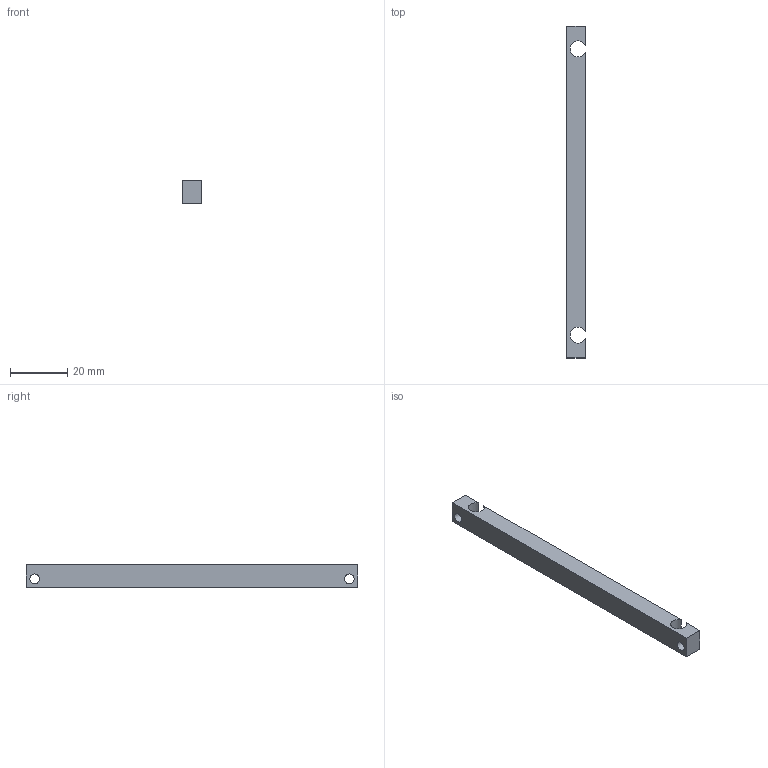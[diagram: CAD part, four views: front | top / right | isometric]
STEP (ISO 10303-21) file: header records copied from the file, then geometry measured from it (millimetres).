
FILE_DESCRIPTION(('Open CASCADE Model'),'2;1');
FILE_NAME('F09-SYNC','2026-11-15T22:32:12',('Author'),('Open CASCADE'), 'Open CASCADE STEP processor 8.0','build123d','Unknown');
FILE_SCHEMA(('AUTOMOTIVE_DESIGN { 1 0 10303 214 1 1 1 1 }'));
Length unit declared in the file: millimetre
Products named in the file (1): F09-SYNC
Bounding box: 6.5 x 116 x 8 mm (x, y, z)
Volume: 5528 mm3; surface area: 3673.3 mm2
Topology: 1 solids, 1 shells, 12 faces, 30 edges, 20 vertices
Faces by surface type: plane 8, cylinder 4
Full cylindrical faces by diameter (mm): 3.4 x2
Entity records: 762 total; most frequent: CARTESIAN_POINT 131, DIRECTION 116, LINE 66, VECTOR 66, ORIENTED_EDGE 60, PCURVE 60, DEFINITIONAL_REPRESENTATION 60, EDGE_CURVE 30
